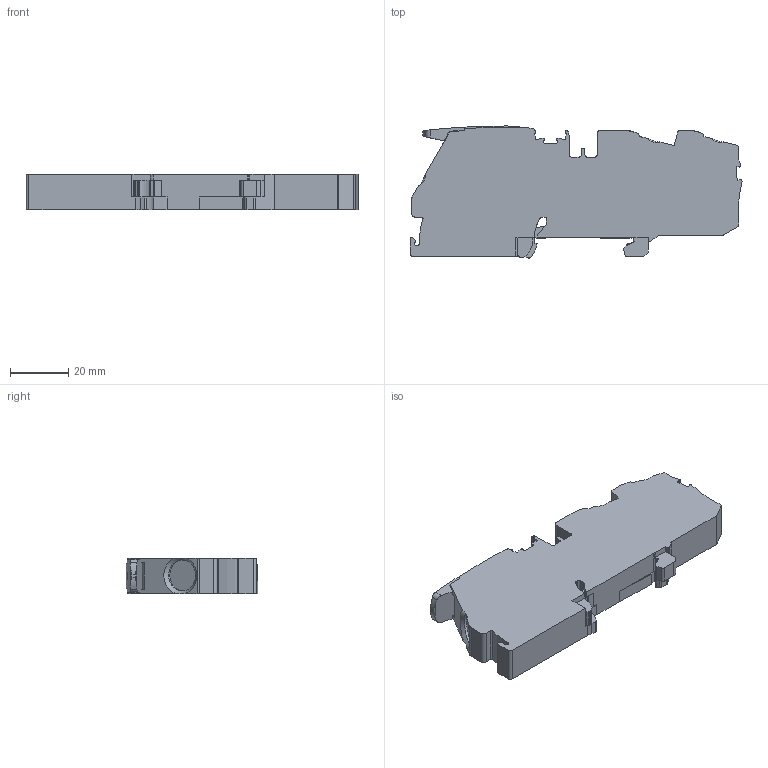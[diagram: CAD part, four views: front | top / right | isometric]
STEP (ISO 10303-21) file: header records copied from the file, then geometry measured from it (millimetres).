
FILE_DESCRIPTION( ( 'STEP AP214' ), ' ' );
FILE_NAME( 'U:/__temp/PartServer_Export/2116-5307.stp', '2018-09-04T13:50:25', ( '' ), ( '' ), ' ', 'PARTsolutions', ' ' );
FILE_SCHEMA( ( 'AUTOMOTIVE_DESIGN { 1 0 10303 214 1 1 1 1 }' ) );
Length unit declared in the file: millimetre
Products named in the file (1): _2116-5307
Bounding box: 113.55 x 45.15 x 12 mm (x, y, z)
Volume: 46487.5 mm3; surface area: 14997.9 mm2
Topology: 1 solids, 1 shells, 363 faces, 1066 edges, 706 vertices
Faces by surface type: plane 222, cylinder 129, cone 8, torus 4
Full cylindrical faces by diameter (mm): 2.1 x1, 2.2 x1, 10.6 x3
Entity records: 15089 total; most frequent: CARTESIAN_POINT 2382, ORIENTED_EDGE 2108, DIRECTION 2013, EDGE_CURVE 1054, LINE 737, VECTOR 737, VERTEX_POINT 703, AXIS2_PLACEMENT_3D 638
